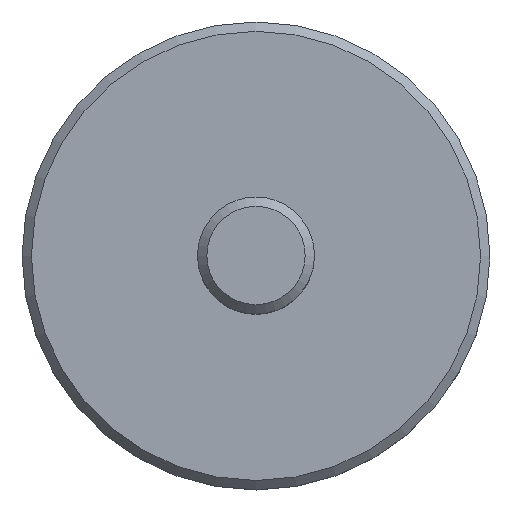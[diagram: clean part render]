
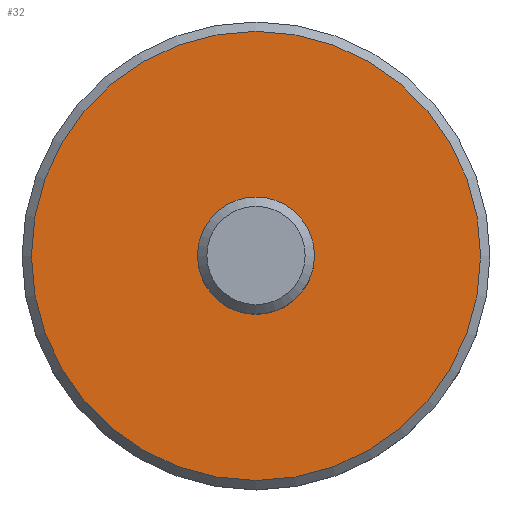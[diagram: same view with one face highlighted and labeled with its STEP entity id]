
A CAD part, top view. The second image highlights one B-rep face of the part: STEP entity #32.
In plain terms, the highlighted planar face has unit normal (0, 0, 1).
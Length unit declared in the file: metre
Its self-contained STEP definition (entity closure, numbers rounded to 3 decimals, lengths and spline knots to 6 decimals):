
#32 = ADVANCED_FACE( '', ( #65, #66 ), #67, .F. );
#65 = FACE_OUTER_BOUND( '', #102, .T. );
#66 = FACE_BOUND( '', #103, .T. );
#67 = PLANE( '', #104 );
#102 = EDGE_LOOP( '', ( #133 ) );
#103 = EDGE_LOOP( '', ( #134 ) );
#104 = AXIS2_PLACEMENT_3D( '', #135, #136, #137 );
#133 = ORIENTED_EDGE( '', *, *, #179, .T. );
#134 = ORIENTED_EDGE( '', *, *, #180, .T. );
#135 = CARTESIAN_POINT( '', ( 0., 0., 0.002 ) );
#136 = DIRECTION( '', ( 0., 0., -1. ) );
#137 = DIRECTION( '', ( -1., 0., 0. ) );
#179 = EDGE_CURVE( '', #194, #194, #195, .F. );
#180 = EDGE_CURVE( '', #196, #196, #197, .T. );
#194 = VERTEX_POINT( '', #216 );
#195 = CIRCLE( '', #217, 0.0048 );
#196 = VERTEX_POINT( '', #218 );
#197 = CIRCLE( '', #219, 0.00125 );
#216 = CARTESIAN_POINT( '', ( -0.0048, 0., 0.002 ) );
#217 = AXIS2_PLACEMENT_3D( '', #237, #238, #239 );
#218 = CARTESIAN_POINT( '', ( 0.00125, 0., 0.002 ) );
#219 = AXIS2_PLACEMENT_3D( '', #240, #241, #242 );
#237 = CARTESIAN_POINT( '', ( 0., 0., 0.002 ) );
#238 = DIRECTION( '', ( 0., 0., -1. ) );
#239 = DIRECTION( '', ( -1., 0., 0. ) );
#240 = CARTESIAN_POINT( '', ( 0., 0., 0.002 ) );
#241 = DIRECTION( '', ( 0., 0., -1. ) );
#242 = DIRECTION( '', ( 1., 0., 0. ) );
